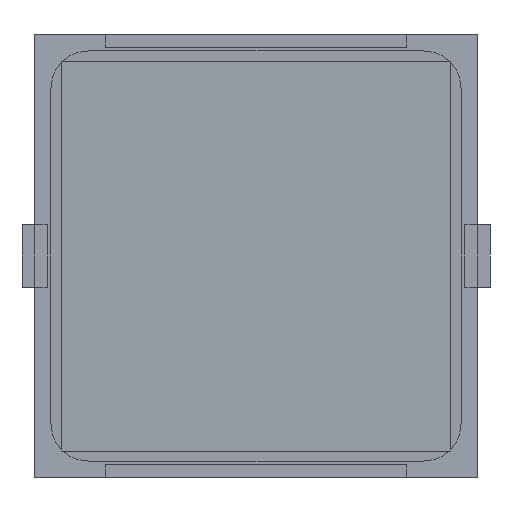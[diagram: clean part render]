
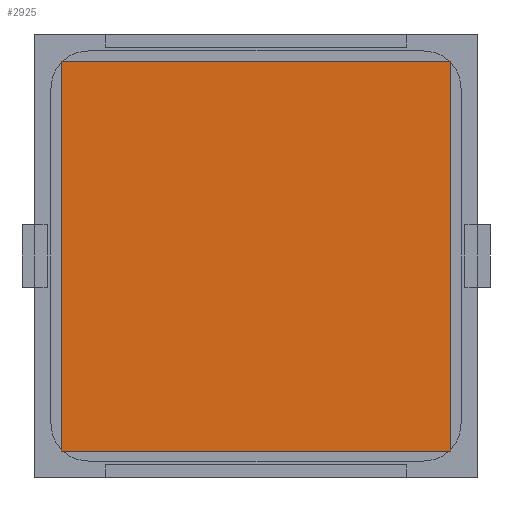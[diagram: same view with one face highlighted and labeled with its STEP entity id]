
A CAD part, front view. The second image highlights one B-rep face of the part: STEP entity #2925.
In plain terms, the highlighted planar face has unit normal (0, -1, 0).
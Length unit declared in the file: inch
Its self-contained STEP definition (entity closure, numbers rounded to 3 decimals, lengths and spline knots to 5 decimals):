
#62 = DIRECTION ( 'NONE',  ( 0., 0., 1. ) ) ;
#144 = CARTESIAN_POINT ( 'NONE',  ( -0.61024, -0.005, -0.61024 ) ) ;
#628 = CARTESIAN_POINT ( 'NONE',  ( -0.61024, -0.005, 0.61024 ) ) ;
#651 = EDGE_CURVE ( 'NONE', #9039, #4449, #4268, .T. ) ;
#873 = DIRECTION ( 'NONE',  ( -1., 0., 0. ) ) ;
#1000 = EDGE_CURVE ( 'NONE', #9850, #9039, #1278, .T. ) ;
#1012 = ORIENTED_EDGE ( 'NONE', *, *, #6803, .F. ) ;
#1148 = VECTOR ( 'NONE', #4445, 39.37008 ) ;
#1278 = LINE ( 'NONE', #11970, #7960 ) ;
#2653 = CARTESIAN_POINT ( 'NONE',  ( 0.61024, -0.005, 0.61024 ) ) ;
#2925 = ADVANCED_FACE ( 'NONE', ( #4434 ), #13857, .F. ) ;
#4268 = LINE ( 'NONE', #11511, #10847 ) ;
#4295 = CARTESIAN_POINT ( 'NONE',  ( -0.61024, -0.005, 0.61024 ) ) ;
#4434 = FACE_OUTER_BOUND ( 'NONE', #6348, .T. ) ;
#4445 = DIRECTION ( 'NONE',  ( 0., 0., 1. ) ) ;
#4449 = VERTEX_POINT ( 'NONE', #5791 ) ;
#4516 = LINE ( 'NONE', #144, #1148 ) ;
#5791 = CARTESIAN_POINT ( 'NONE',  ( -0.61024, -0.005, -0.61024 ) ) ;
#5884 = DIRECTION ( 'NONE',  ( 1., 0., 0. ) ) ;
#6348 = EDGE_LOOP ( 'NONE', ( #8782, #7696, #8500, #1012 ) ) ;
#6655 = DIRECTION ( 'NONE',  ( 0., 0., -1. ) ) ;
#6803 = EDGE_CURVE ( 'NONE', #12401, #9850, #11188, .T. ) ;
#6848 = VECTOR ( 'NONE', #5884, 39.37008 ) ;
#7696 = ORIENTED_EDGE ( 'NONE', *, *, #651, .F. ) ;
#7960 = VECTOR ( 'NONE', #6655, 39.37008 ) ;
#8500 = ORIENTED_EDGE ( 'NONE', *, *, #1000, .F. ) ;
#8782 = ORIENTED_EDGE ( 'NONE', *, *, #9584, .F. ) ;
#9039 = VERTEX_POINT ( 'NONE', #9898 ) ;
#9402 = AXIS2_PLACEMENT_3D ( 'NONE', #4295, #9644, #62 ) ;
#9584 = EDGE_CURVE ( 'NONE', #4449, #12401, #4516, .T. ) ;
#9644 = DIRECTION ( 'NONE',  ( 0., 1., 0. ) ) ;
#9850 = VERTEX_POINT ( 'NONE', #2653 ) ;
#9898 = CARTESIAN_POINT ( 'NONE',  ( 0.61024, -0.005, -0.61024 ) ) ;
#10847 = VECTOR ( 'NONE', #873, 39.37008 ) ;
#11188 = LINE ( 'NONE', #628, #6848 ) ;
#11511 = CARTESIAN_POINT ( 'NONE',  ( -0.61024, -0.005, -0.61024 ) ) ;
#11970 = CARTESIAN_POINT ( 'NONE',  ( 0.61024, -0.005, -0.61024 ) ) ;
#12021 = CARTESIAN_POINT ( 'NONE',  ( -0.61024, -0.005, 0.61024 ) ) ;
#12401 = VERTEX_POINT ( 'NONE', #12021 ) ;
#13857 = PLANE ( 'NONE',  #9402 ) ;
